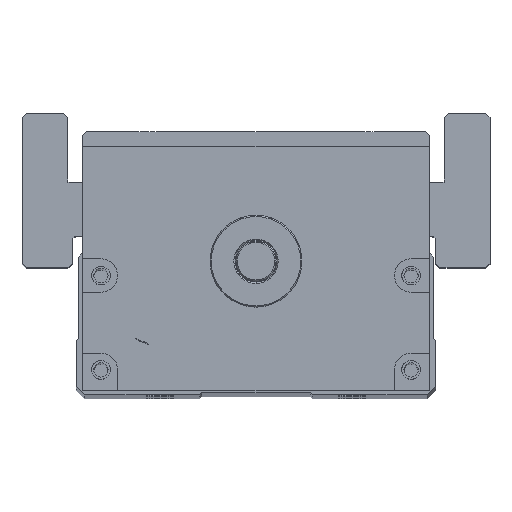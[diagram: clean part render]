
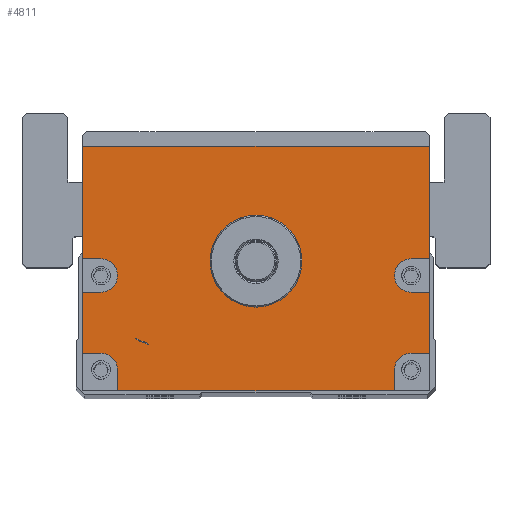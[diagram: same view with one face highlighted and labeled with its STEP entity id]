
A CAD part, top view. The second image highlights one B-rep face of the part: STEP entity #4811.
In plain terms, the highlighted planar face has unit normal (0, 0, 1).
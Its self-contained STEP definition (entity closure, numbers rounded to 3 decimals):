
#3477=FACE_BOUND('',#6436,.T.);
#3478=FACE_BOUND('',#6437,.T.);
#3961=CIRCLE('',#14714,11.);
#3972=CIRCLE('',#14728,4.);
#3973=CIRCLE('',#14729,4.);
#3974=CIRCLE('',#14730,4.);
#3975=CIRCLE('',#14731,4.);
#4811=ADVANCED_FACE('',(#3477,#3478),#5288,.T.);
#5288=PLANE('',#14732);
#6436=EDGE_LOOP('',(#8771,#8772,#8773,#8774,#8775,#8776,#8777,#8778,#8779,
#8780,#8781,#8782,#8783,#8784,#8785,#8786,#8787,#8788));
#6437=EDGE_LOOP('',(#8789));
#8771=ORIENTED_EDGE('',*,*,#11916,.F.);
#8772=ORIENTED_EDGE('',*,*,#11917,.T.);
#8773=ORIENTED_EDGE('',*,*,#11918,.F.);
#8774=ORIENTED_EDGE('',*,*,#11919,.F.);
#8775=ORIENTED_EDGE('',*,*,#11920,.F.);
#8776=ORIENTED_EDGE('',*,*,#11921,.T.);
#8777=ORIENTED_EDGE('',*,*,#11912,.T.);
#8778=ORIENTED_EDGE('',*,*,#11922,.T.);
#8779=ORIENTED_EDGE('',*,*,#11923,.F.);
#8780=ORIENTED_EDGE('',*,*,#11924,.F.);
#8781=ORIENTED_EDGE('',*,*,#11925,.F.);
#8782=ORIENTED_EDGE('',*,*,#11926,.T.);
#8783=ORIENTED_EDGE('',*,*,#11927,.F.);
#8784=ORIENTED_EDGE('',*,*,#11928,.F.);
#8785=ORIENTED_EDGE('',*,*,#11929,.F.);
#8786=ORIENTED_EDGE('',*,*,#11930,.T.);
#8787=ORIENTED_EDGE('',*,*,#11931,.F.);
#8788=ORIENTED_EDGE('',*,*,#11932,.F.);
#8789=ORIENTED_EDGE('',*,*,#11898,.T.);
#10522=VERTEX_POINT('',#21122);
#10535=VERTEX_POINT('',#21150);
#10536=VERTEX_POINT('',#21152);
#10539=VERTEX_POINT('',#21160);
#10540=VERTEX_POINT('',#21161);
#10541=VERTEX_POINT('',#21163);
#10542=VERTEX_POINT('',#21165);
#10543=VERTEX_POINT('',#21167);
#10544=VERTEX_POINT('',#21169);
#10545=VERTEX_POINT('',#21172);
#10546=VERTEX_POINT('',#21174);
#10547=VERTEX_POINT('',#21176);
#10548=VERTEX_POINT('',#21178);
#10549=VERTEX_POINT('',#21180);
#10550=VERTEX_POINT('',#21182);
#10551=VERTEX_POINT('',#21184);
#10552=VERTEX_POINT('',#21186);
#10553=VERTEX_POINT('',#21188);
#10554=VERTEX_POINT('',#21190);
#11898=EDGE_CURVE('',#10522,#10522,#3961,.T.);
#11912=EDGE_CURVE('',#10536,#10535,#13003,.T.);
#11916=EDGE_CURVE('',#10539,#10540,#13005,.T.);
#11917=EDGE_CURVE('',#10539,#10541,#13006,.T.);
#11918=EDGE_CURVE('',#10542,#10541,#13007,.T.);
#11919=EDGE_CURVE('',#10543,#10542,#3972,.T.);
#11920=EDGE_CURVE('',#10544,#10543,#13008,.T.);
#11921=EDGE_CURVE('',#10544,#10536,#13009,.T.);
#11922=EDGE_CURVE('',#10535,#10545,#13010,.T.);
#11923=EDGE_CURVE('',#10546,#10545,#13011,.T.);
#11924=EDGE_CURVE('',#10547,#10546,#3973,.T.);
#11925=EDGE_CURVE('',#10548,#10547,#13012,.T.);
#11926=EDGE_CURVE('',#10548,#10549,#13013,.T.);
#11927=EDGE_CURVE('',#10550,#10549,#13014,.T.);
#11928=EDGE_CURVE('',#10551,#10550,#3974,.T.);
#11929=EDGE_CURVE('',#10552,#10551,#13015,.T.);
#11930=EDGE_CURVE('',#10552,#10553,#13016,.T.);
#11931=EDGE_CURVE('',#10554,#10553,#13017,.T.);
#11932=EDGE_CURVE('',#10540,#10554,#3975,.T.);
#13003=LINE('',#21151,#13797);
#13005=LINE('',#21159,#13799);
#13006=LINE('',#21162,#13800);
#13007=LINE('',#21164,#13801);
#13008=LINE('',#21168,#13802);
#13009=LINE('',#21170,#13803);
#13010=LINE('',#21171,#13804);
#13011=LINE('',#21173,#13805);
#13012=LINE('',#21177,#13806);
#13013=LINE('',#21179,#13807);
#13014=LINE('',#21181,#13808);
#13015=LINE('',#21185,#13809);
#13016=LINE('',#21187,#13810);
#13017=LINE('',#21189,#13811);
#13797=VECTOR('',#17086,1.);
#13799=VECTOR('',#17094,1.);
#13800=VECTOR('',#17095,1.);
#13801=VECTOR('',#17096,1.);
#13802=VECTOR('',#17099,1.);
#13803=VECTOR('',#17100,1.);
#13804=VECTOR('',#17101,1.);
#13805=VECTOR('',#17102,1.);
#13806=VECTOR('',#17105,1.);
#13807=VECTOR('',#17106,1.);
#13808=VECTOR('',#17107,1.);
#13809=VECTOR('',#17110,1.);
#13810=VECTOR('',#17111,1.);
#13811=VECTOR('',#17112,1.);
#14714=AXIS2_PLACEMENT_3D('',#21121,#17059,#17060);
#14728=AXIS2_PLACEMENT_3D('',#21166,#17097,#17098);
#14729=AXIS2_PLACEMENT_3D('',#21175,#17103,#17104);
#14730=AXIS2_PLACEMENT_3D('',#21183,#17108,#17109);
#14731=AXIS2_PLACEMENT_3D('',#21191,#17113,#17114);
#14732=AXIS2_PLACEMENT_3D('',#21192,#17115,#17116);
#17059=DIRECTION('',(0.,0.,-1.));
#17060=DIRECTION('',(1.,0.,0.));
#17086=DIRECTION('',(-1.,0.,0.));
#17094=DIRECTION('',(-1.,0.,0.));
#17095=DIRECTION('',(0.,1.,0.));
#17096=DIRECTION('',(1.,0.,0.));
#17097=DIRECTION('',(0.,0.,1.));
#17098=DIRECTION('',(1.,0.,0.));
#17099=DIRECTION('',(-1.,0.,0.));
#17100=DIRECTION('',(0.,1.,0.));
#17101=DIRECTION('',(0.,-1.,0.));
#17102=DIRECTION('',(-1.,0.,0.));
#17103=DIRECTION('',(0.,0.,1.));
#17104=DIRECTION('',(1.,0.,0.));
#17105=DIRECTION('',(1.,0.,0.));
#17106=DIRECTION('',(0.,-1.,0.));
#17107=DIRECTION('',(-1.,0.,0.));
#17108=DIRECTION('',(0.,0.,1.));
#17109=DIRECTION('',(1.,0.,0.));
#17110=DIRECTION('',(0.,1.,0.));
#17111=DIRECTION('',(1.,0.,0.));
#17112=DIRECTION('',(0.,-1.,0.));
#17113=DIRECTION('',(0.,0.,1.));
#17114=DIRECTION('',(1.,0.,0.));
#17115=DIRECTION('',(0.,0.,1.));
#17116=DIRECTION('',(1.,0.,0.));
#21121=CARTESIAN_POINT('',(450.,0.,382.5));
#21122=CARTESIAN_POINT('',(461.,0.,382.5));
#21150=CARTESIAN_POINT('',(408.5,27.5,382.5));
#21151=CARTESIAN_POINT('',(491.5,27.5,382.5));
#21152=CARTESIAN_POINT('',(491.5,27.5,382.5));
#21159=CARTESIAN_POINT('',(491.5,-22.,382.5));
#21160=CARTESIAN_POINT('',(491.5,-22.,382.5));
#21161=CARTESIAN_POINT('',(487.115,-22.,382.5));
#21162=CARTESIAN_POINT('',(491.5,-31.,382.5));
#21163=CARTESIAN_POINT('',(491.5,-7.431,382.5));
#21164=CARTESIAN_POINT('',(491.5,-7.431,382.5));
#21165=CARTESIAN_POINT('',(487.115,-7.431,382.5));
#21166=CARTESIAN_POINT('',(487.115,-3.431,382.5));
#21167=CARTESIAN_POINT('',(487.115,0.569,382.5));
#21168=CARTESIAN_POINT('',(491.5,0.569,382.5));
#21169=CARTESIAN_POINT('',(491.5,0.569,382.5));
#21170=CARTESIAN_POINT('',(491.5,-31.,382.5));
#21171=CARTESIAN_POINT('',(408.5,27.5,382.5));
#21172=CARTESIAN_POINT('',(408.5,0.569,382.5));
#21173=CARTESIAN_POINT('',(491.5,0.569,382.5));
#21174=CARTESIAN_POINT('',(412.885,0.569,382.5));
#21175=CARTESIAN_POINT('',(412.885,-3.431,382.5));
#21176=CARTESIAN_POINT('',(412.885,-7.431,382.5));
#21177=CARTESIAN_POINT('',(491.5,-7.431,382.5));
#21178=CARTESIAN_POINT('',(408.5,-7.431,382.5));
#21179=CARTESIAN_POINT('',(408.5,27.5,382.5));
#21180=CARTESIAN_POINT('',(408.5,-22.,382.5));
#21181=CARTESIAN_POINT('',(491.5,-22.,382.5));
#21182=CARTESIAN_POINT('',(412.885,-22.,382.5));
#21183=CARTESIAN_POINT('',(412.885,-26.,382.5));
#21184=CARTESIAN_POINT('',(416.885,-26.,382.5));
#21185=CARTESIAN_POINT('',(416.885,-31.,382.5));
#21186=CARTESIAN_POINT('',(416.885,-31.,382.5));
#21187=CARTESIAN_POINT('',(408.5,-31.,382.5));
#21188=CARTESIAN_POINT('',(483.115,-31.,382.5));
#21189=CARTESIAN_POINT('',(483.115,-31.,382.5));
#21190=CARTESIAN_POINT('',(483.115,-26.,382.5));
#21191=CARTESIAN_POINT('',(487.115,-26.,382.5));
#21192=CARTESIAN_POINT('',(491.5,-31.,382.5));
